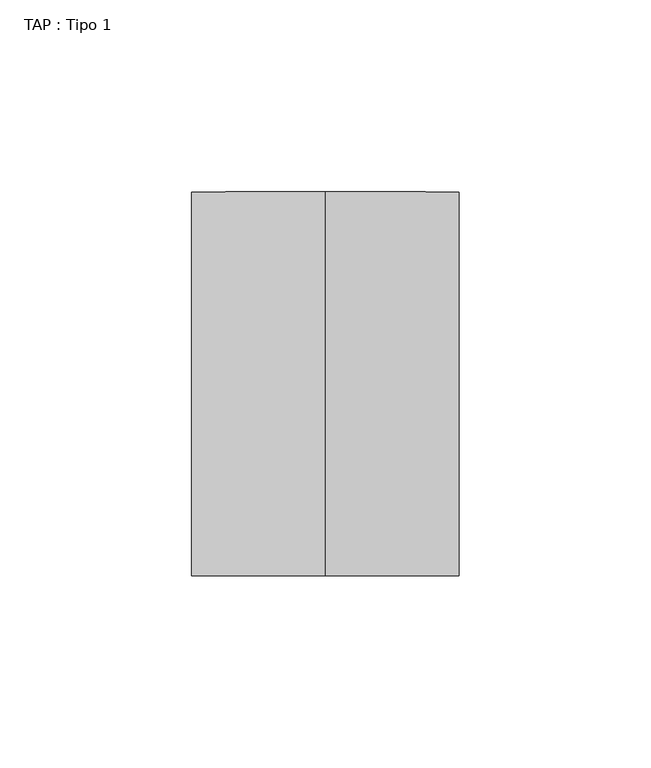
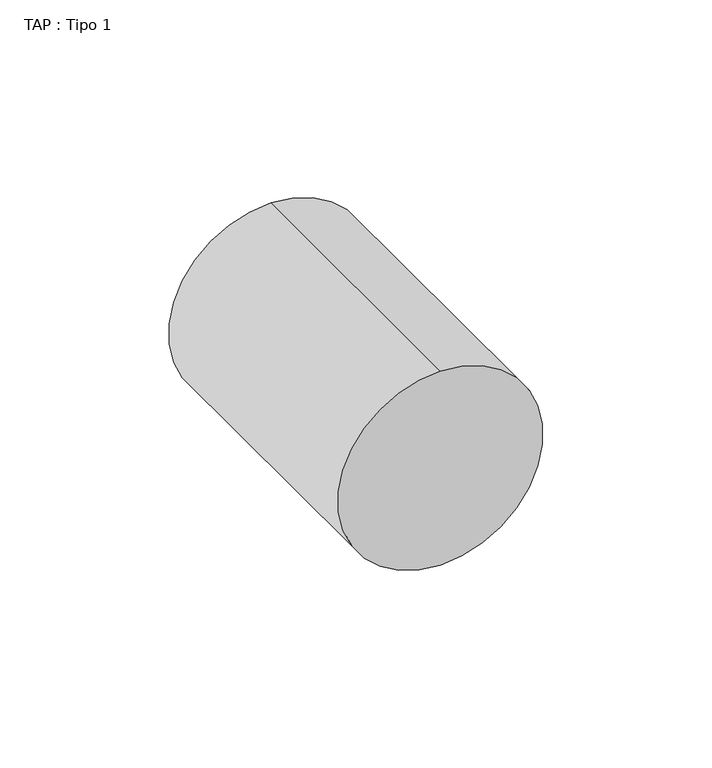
"""IFC4 building model written with IfcOpenShell, lengths in millimetres: proxy geometry, TAP : Tipo 1."""

import ifcopenshell
import ifcopenshell.guid

model = None  # the IFC model being written
_history = None  # IfcOwnerHistory: only IFC2X3 demands one
_inside = {}  # id of a spatial element -> (the spatial element, [elements in it])
_under = {}  # id of a project, library or spatial element -> (it, [spatial elements below it])
_declared = {}  # id of a project -> (the project, [libraries it declares])
_typed = {}  # id of a type object -> (the type object, [elements of that type])
_made_of = {}  # id of a material, layer set ... -> (it, [elements and type objects made of it])


def new_model(schema):
    """Start an empty IFC model of exactly this schema.

    Asked for "IFC4X3", IfcOpenShell would pick the latest addendum, in which some entities
    have other attributes; the version numbers below select the first issue.
    IFC2X3 requires an IfcOwnerHistory on every rooted entity: one is made here for all.
    """
    global model, _history
    if schema == "IFC4X3":
        model = ifcopenshell.file(schema_version=(4, 3, 0, 0))
    else:
        model = ifcopenshell.file(schema=schema)
    _inside.clear()
    _under.clear()
    _declared.clear()
    _typed.clear()
    _made_of.clear()
    _history = None
    if model.schema == "IFC2X3":
        org = make("IfcOrganization", Name="unknown")
        user = make(
            "IfcPersonAndOrganization",
            ThePerson=make("IfcPerson", FamilyName="unknown"),
            TheOrganization=org,
        )
        app = make(
            "IfcApplication",
            ApplicationDeveloper=org,
            Version="unknown",
            ApplicationFullName="unknown",
            ApplicationIdentifier="unknown",
        )
        _history = make(
            "IfcOwnerHistory",
            OwningUser=user,
            OwningApplication=app,
            ChangeAction="ADDED",
            CreationDate=0,
        )
    return model


def make(cls, **values):
    """One entity of the class cls with the attributes given. An attribute that is None is left unset."""
    return model.create_entity(
        cls, **{name: value for name, value in values.items() if value is not None}
    )


def rooted(cls, **values):
    """An entity with a GlobalId (a new one), such as an element, a storey or a relation."""
    return make(cls, GlobalId=ifcopenshell.guid.new(), OwnerHistory=_history, **values)


def si_unit(unit_type, name, prefix=None):
    """IfcSIUnit, for example si_unit("LENGTHUNIT", "METRE", prefix="MILLI")."""
    return make("IfcSIUnit", UnitType=unit_type, Prefix=prefix, Name=name)


def assignment(units):
    """IfcUnitAssignment: the units of a project."""
    return None if units is None else make("IfcUnitAssignment", Units=units)


def point(xyz):
    """IfcCartesianPoint."""
    return None if xyz is None else make("IfcCartesianPoint", Coordinates=xyz)


def direction(xyz):
    """IfcDirection."""
    return None if xyz is None else make("IfcDirection", DirectionRatios=xyz)


def frame(location, z_axis=None, x_axis=None):
    """IfcAxis2Placement3D, a coordinate frame: its origin and axes. An axis left out is left unset."""
    return make(
        "IfcAxis2Placement3D",
        Location=point(location),
        Axis=direction(z_axis),
        RefDirection=direction(x_axis),
    )


def frame_2d(location, x_axis=None):
    """IfcAxis2Placement2D, a coordinate frame in the plane: its origin and x axis."""
    return make(
        "IfcAxis2Placement2D", Location=point(location), RefDirection=direction(x_axis)
    )


def origin():
    """The frame at (0, 0, 0) with its axes left unset."""
    return frame((0.0, 0.0, 0.0))


def place(relative_to, where):
    """IfcLocalPlacement: puts the frame where relative to a parent placement (None: the world)."""
    return make(
        "IfcLocalPlacement", PlacementRelTo=relative_to, RelativePlacement=where
    )


def context(
    kind, dimensions, precision=None, world=None, true_north=None, identifier=None
):
    """IfcGeometricRepresentationContext, for example the 3D "Model" context."""
    return make(
        "IfcGeometricRepresentationContext",
        ContextIdentifier=identifier,
        ContextType=kind,
        CoordinateSpaceDimension=dimensions,
        Precision=precision,
        WorldCoordinateSystem=world,
        TrueNorth=true_north,
    )


def project(units=None, contexts=None):
    """IfcProject with its units and contexts."""
    return rooted(
        "IfcProject",
        Name="project",
        RepresentationContexts=contexts,
        UnitsInContext=assignment(units),
    )


def spatial(cls, under=None, at=None, **own):
    """A site, building, storey or space (cls), placed at a placement, below another one or the project."""
    s = rooted(cls, ObjectPlacement=at, **own)
    if under is not None:
        _under.setdefault(under.id(), (under, []))[1].append(s)
    return s


def circle_curve(where, radius):
    """IfcCircle in the frame where."""
    return make("IfcCircle", Position=where, Radius=radius)


def trimmed(basis, trim1, trim2, sense, master):
    """IfcTrimmedCurve: the piece of a basis curve between two trims."""
    return make(
        "IfcTrimmedCurve",
        BasisCurve=basis,
        Trim1=trim1,
        Trim2=trim2,
        SenseAgreement=sense,
        MasterRepresentation=master,
    )


def segment(curve, same_sense, transition):
    """IfcCompositeCurveSegment."""
    return make(
        "IfcCompositeCurveSegment",
        Transition=transition,
        SameSense=same_sense,
        ParentCurve=curve,
    )


def composite_curve(segments, self_intersect=None):
    """IfcCompositeCurve: segments joined end to end."""
    return make("IfcCompositeCurve", Segments=segments, SelfIntersect=self_intersect)


def outline(outer, holes=None, kind="AREA"):
    """IfcArbitraryClosedProfileDef: a profile drawn as a closed curve; with holes, ...WithVoids."""
    if holes is None:
        return make("IfcArbitraryClosedProfileDef", ProfileType=kind, OuterCurve=outer)
    return make(
        "IfcArbitraryProfileDefWithVoids",
        ProfileType=kind,
        OuterCurve=outer,
        InnerCurves=holes,
    )


def extrude(swept, where, along, depth):
    """IfcExtrudedAreaSolid: the profile swept, set in the frame where, extruded along a direction by depth."""
    return make(
        "IfcExtrudedAreaSolid",
        SweptArea=swept,
        Position=where,
        ExtrudedDirection=direction(along),
        Depth=depth,
    )


def shape(context_of_items, identifier, shape_type, items):
    """IfcShapeRepresentation: the items that make up one representation, for example the "Body"."""
    return make(
        "IfcShapeRepresentation",
        ContextOfItems=context_of_items,
        RepresentationIdentifier=identifier,
        RepresentationType=shape_type,
        Items=items,
    )


def source(mapping_origin, context_of_items, identifier, shape_type, items):
    """IfcRepresentationMap: a shape defined once, which mapped items show again and again."""
    return make(
        "IfcRepresentationMap",
        MappingOrigin=mapping_origin,
        MappedRepresentation=shape(context_of_items, identifier, shape_type, items),
    )


def transform(
    local_origin,
    x_axis=None,
    y_axis=None,
    z_axis=None,
    scale=None,
    scale2=None,
    scale3=None,
    uniform=True,
):
    """IfcCartesianTransformationOperator3D, or its non-uniform kind. x_axis, y_axis, z_axis: its Axis1, 2, 3."""
    if uniform:
        return make(
            "IfcCartesianTransformationOperator3D",
            Axis1=direction(x_axis),
            Axis2=direction(y_axis),
            LocalOrigin=point(local_origin),
            Scale=scale,
            Axis3=direction(z_axis),
        )
    return make(
        "IfcCartesianTransformationOperator3DnonUniform",
        Axis1=direction(x_axis),
        Axis2=direction(y_axis),
        LocalOrigin=point(local_origin),
        Scale=scale,
        Axis3=direction(z_axis),
        Scale2=scale2,
        Scale3=scale3,
    )


def mapped(mapping_source, mapping_target):
    """IfcMappedItem: shows the shape of a source again, moved by a transform."""
    return make(
        "IfcMappedItem", MappingSource=mapping_source, MappingTarget=mapping_target
    )


def made_of(thing, what):
    """Note that an element or type object is made of a material, layer set ...; save() writes the relation."""
    if what is not None:
        _made_of.setdefault(what.id(), (what, []))[1].append(thing)
    return thing


def element(
    cls,
    number,
    at=None,
    inside=None,
    cuts=None,
    type_object=None,
    material=None,
    context=None,
    identifier="Body",
    shape_type=None,
    held_by="IfcProductDefinitionShape",
    body=None,
    shapes=None,
    **own,
):
    """One element of the class cls, such as IfcWall. Its Tag is "e" and its number.

    at: its placement. inside: the storey or other place that contains it. cuts: it is an
    opening in that element (IfcRelVoidsElement). A single representation is given by context,
    identifier, shape_type and body (its items); several are given by shapes. held_by: the class
    of the entity that holds the representations. save() writes the other relations.
    """
    e = rooted(cls, Tag="e%d" % number, ObjectPlacement=at, **own)
    if body is not None:
        shapes = [shape(context, identifier, shape_type, body)]
    if shapes is not None:
        e.Representation = make(held_by, Representations=shapes)
    if inside is not None:
        _inside.setdefault(inside.id(), (inside, []))[1].append(e)
    if cuts is not None:
        rooted(
            "IfcRelVoidsElement", RelatingBuildingElement=cuts, RelatedOpeningElement=e
        )
    if type_object is not None:
        _typed.setdefault(type_object.id(), (type_object, []))[1].append(e)
    return made_of(e, material)


def aggregate(whole, parts):
    """IfcRelAggregates: a whole, such as a stair, and the parts it consists of."""
    return rooted("IfcRelAggregates", RelatingObject=whole, RelatedObjects=parts)


def save(model, path):
    """Write the relations noted so far, then the file.

    IfcRelAggregates (storeys below a building ...), IfcRelContainedInSpatialStructure (elements
    in a storey), IfcRelDefinesByType, IfcRelAssociatesMaterial and IfcRelDeclares: one each for
    every whole, place, type object, material and project.
    """
    for whole, parts in _under.values():
        aggregate(whole, parts)
    for where, things in _inside.values():
        rooted(
            "IfcRelContainedInSpatialStructure",
            RelatedElements=things,
            RelatingStructure=where,
        )
    for kind, things in _typed.values():
        rooted("IfcRelDefinesByType", RelatedObjects=things, RelatingType=kind)
    for what, things in _made_of.values():
        rooted("IfcRelAssociatesMaterial", RelatedObjects=things, RelatingMaterial=what)
    for by, libraries in _declared.values():
        rooted("IfcRelDeclares", RelatingContext=by, RelatedDefinitions=libraries)
    model.write(path)


def tap_tipo_1_469233f4(model_context):
    return source(origin(), model_context, "Body", "SweptSolid", [
        extrude(outline(composite_curve([segment(trimmed(circle_curve(frame_2d((679.7029033, 125.0)), 35.0), [point((644.7029033, 125.0))], [point((714.7029033, 125.0))], False, "CARTESIAN"), True, "CONTINUOUS"), segment(trimmed(circle_curve(frame_2d((679.7029033, 125.0)), 35.0), [point((714.7029033, 125.0))], [point((644.7029033, 125.0))], False, "CARTESIAN"), True, "CONTINUOUS")], self_intersect=False)), frame((0.0, -175.0, 0.0), z_axis=(0.0, 1.0, 0.0), x_axis=(0.0, 0.0, 1.0)), (0.0, 0.0, 1.0), 100.0),
    ])


if __name__ == "__main__":
    model = new_model("IFC4")
    model_context = context("Model", 3, world=origin())
    ifc_project = project(units=[si_unit("LENGTHUNIT", "METRE", prefix="MILLI")], contexts=[model_context])
    site = spatial("IfcSite", under=ifc_project)
    building = spatial("IfcBuilding", under=site)
    placement = place(None, origin())
    tap_tipo_1_shape = tap_tipo_1_469233f4(model_context)
    element("IfcBuildingElementProxy", 1, Name="TAP : Tipo 1", ObjectType="TAP : Tipo 1", at=placement, inside=building, context=model_context, shape_type="MappedRepresentation", body=[
        mapped(tap_tipo_1_shape, transform((0.0, 0.0, 0.0), x_axis=(1.0, 0.0, 0.0), y_axis=(0.0, 1.0, 0.0), z_axis=(0.0, 0.0, 1.0))),
    ])
    save(model, "model.ifc")
